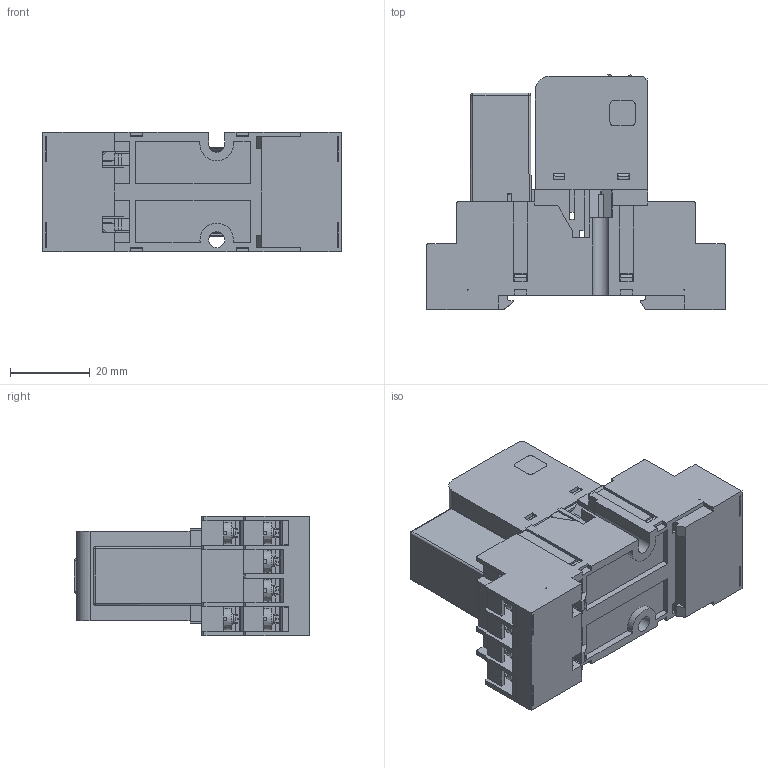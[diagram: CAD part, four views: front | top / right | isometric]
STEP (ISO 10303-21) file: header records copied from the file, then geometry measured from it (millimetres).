
FILE_DESCRIPTION(('STEP AP214'), '1');
FILE_NAME('Ðåëå ìîäóëüíîå ÐÏ30Õ-004-Ì30-ÕÕ (íà ïîêàç)', '2022-10-17T16:04:42', (''), (''), 'ASCON STEP Converter 1.6', 'ASCON Math Kernel', '');
FILE_SCHEMA(('AUTOMOTIVE_DESIGN { 1 0 10303 214 3 1 1}'));
Length unit declared in the file: millimetre
Bounding box: 74.9 x 59 x 30 mm (x, y, z)
Volume: 22528.7 mm3; surface area: 41232.4 mm2
Topology: 19 solids, 19 shells, 4061 faces, 11396 edges, 7296 vertices
Faces by surface type: plane 2955, cylinder 663, torus 196, bspline 148, cone 99
Full cylindrical faces by diameter (mm): 0.6 x2, 2.3 x14, 3 x29, 3.54 x14, 4 x1, 4.5 x14
Entity records: 187394 total; most frequent: CARTESIAN_POINT 53663, ORIENTED_EDGE 22494, DIRECTION 18703, EDGE_CURVE 11247, LINE 7831, VECTOR 7831, VERTEX_POINT 7298, AXIS2_PLACEMENT_3D 5436
